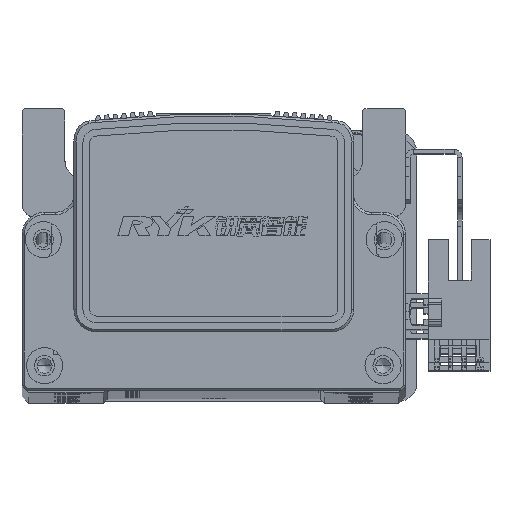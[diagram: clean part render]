
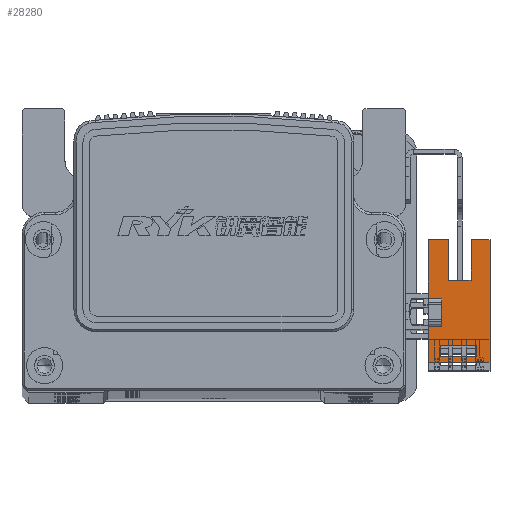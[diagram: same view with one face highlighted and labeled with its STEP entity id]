
A CAD part, top view. The second image highlights one B-rep face of the part: STEP entity #28280.
In plain terms, the highlighted planar face has unit normal (0, 0, 1) as drawn and (1, 0, 0) by its records, which use the part's own axes.
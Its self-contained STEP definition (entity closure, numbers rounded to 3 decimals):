
#395 = CARTESIAN_POINT ( 'NONE',  ( 3.2, 16.1, 3. ) ) ;
#405 = DIRECTION ( 'NONE',  ( 0., 1., 0. ) ) ;
#9105 = FACE_OUTER_BOUND ( 'NONE', #56642, .T. ) ;
#9120 = FACE_BOUND ( 'NONE', #58820, .T. ) ;
#10936 = CARTESIAN_POINT ( 'NONE',  ( 3.2, 16.1, -10.7 ) ) ;
#10950 = DIRECTION ( 'NONE',  ( 0., 1., 0. ) ) ;
#10956 = DIRECTION ( 'NONE',  ( 1., 0., 0. ) ) ;
#10961 = PLANE ( 'NONE',  #12302 ) ;
#12302 = AXIS2_PLACEMENT_3D ( 'NONE', #10936, #10956, #10950 ) ;
#18499 = CARTESIAN_POINT ( 'NONE',  ( 3.2, 16.1, -6.5 ) ) ;
#18539 = CARTESIAN_POINT ( 'NONE',  ( 3.2, 16.1, 3. ) ) ;
#18556 = CARTESIAN_POINT ( 'NONE',  ( 3.2, -3.1, 3. ) ) ;
#18564 = CARTESIAN_POINT ( 'NONE',  ( 3.2, -9.83, 0.3 ) ) ;
#18583 = CARTESIAN_POINT ( 'NONE',  ( 3.2, 16.1, -1.5 ) ) ;
#18586 = CARTESIAN_POINT ( 'NONE',  ( 3.2, 16.1, -10.7 ) ) ;
#18587 = CARTESIAN_POINT ( 'NONE',  ( 3.2, -7.33, 0.3 ) ) ;
#18607 = CARTESIAN_POINT ( 'NONE',  ( 3.2, 7.1, -6.5 ) ) ;
#18619 = CARTESIAN_POINT ( 'NONE',  ( 3.2, -9.83, -7.7 ) ) ;
#18626 = CARTESIAN_POINT ( 'NONE',  ( 3.2, -7.33, -7.7 ) ) ;
#18630 = CARTESIAN_POINT ( 'NONE',  ( 3.2, 3.1, 3. ) ) ;
#18632 = CARTESIAN_POINT ( 'NONE',  ( 3.2, -11.1, 3. ) ) ;
#18638 = CARTESIAN_POINT ( 'NONE',  ( 3.2, 3.1, 0. ) ) ;
#18640 = CARTESIAN_POINT ( 'NONE',  ( 3.2, 7.1, -1.5 ) ) ;
#18651 = CARTESIAN_POINT ( 'NONE',  ( 3.2, -11.1, -10.7 ) ) ;
#18718 = CARTESIAN_POINT ( 'NONE',  ( 3.2, -3.1, 0. ) ) ;
#22558 = VECTOR ( 'NONE', #53618, 1000. ) ;
#22575 = LINE ( 'NONE', #53603, #22607 ) ;
#22585 = LINE ( 'NONE', #53562, #22612 ) ;
#22592 = VECTOR ( 'NONE', #53613, 1000. ) ;
#22597 = LINE ( 'NONE', #53681, #22592 ) ;
#22607 = VECTOR ( 'NONE', #53650, 1000. ) ;
#22612 = VECTOR ( 'NONE', #53586, 1000. ) ;
#22614 = LINE ( 'NONE', #53658, #22558 ) ;
#22622 = LINE ( 'NONE', #53735, #22648 ) ;
#22628 = LINE ( 'NONE', #53875, #22669 ) ;
#22646 = VECTOR ( 'NONE', #53850, 1000. ) ;
#22648 = VECTOR ( 'NONE', #53760, 1000. ) ;
#22663 = LINE ( 'NONE', #53816, #22671 ) ;
#22669 = VECTOR ( 'NONE', #53790, 1000. ) ;
#22670 = VECTOR ( 'NONE', #53855, 1000. ) ;
#22671 = VECTOR ( 'NONE', #53849, 1000. ) ;
#22675 = LINE ( 'NONE', #53845, #22646 ) ;
#22683 = LINE ( 'NONE', #53814, #22670 ) ;
#28280 = ADVANCED_FACE ( 'NONE', ( #9105, #9120 ), #10961, .T. ) ;
#29840 = VERTEX_POINT ( 'NONE', #18499 ) ;
#29869 = VERTEX_POINT ( 'NONE', #18556 ) ;
#29870 = VERTEX_POINT ( 'NONE', #18586 ) ;
#29875 = VERTEX_POINT ( 'NONE', #18539 ) ;
#29891 = VERTEX_POINT ( 'NONE', #18583 ) ;
#29892 = VERTEX_POINT ( 'NONE', #18587 ) ;
#29918 = VERTEX_POINT ( 'NONE', #18564 ) ;
#29919 = VERTEX_POINT ( 'NONE', #18651 ) ;
#29931 = VERTEX_POINT ( 'NONE', #18632 ) ;
#29933 = VERTEX_POINT ( 'NONE', #18630 ) ;
#29938 = VERTEX_POINT ( 'NONE', #18638 ) ;
#29945 = VERTEX_POINT ( 'NONE', #18640 ) ;
#29956 = VERTEX_POINT ( 'NONE', #18619 ) ;
#29974 = VERTEX_POINT ( 'NONE', #18607 ) ;
#29981 = VERTEX_POINT ( 'NONE', #18626 ) ;
#29997 = VERTEX_POINT ( 'NONE', #18718 ) ;
#40644 = EDGE_CURVE ( 'NONE', #29997, #29938, #22585, .T. ) ;
#40648 = EDGE_CURVE ( 'NONE', #29918, #29956, #22597, .T. ) ;
#40661 = EDGE_CURVE ( 'NONE', #29933, #29875, #22614, .T. ) ;
#40669 = EDGE_CURVE ( 'NONE', #29840, #29974, #22575, .T. ) ;
#40712 = EDGE_CURVE ( 'NONE', #29981, #29892, #22622, .T. ) ;
#40734 = EDGE_CURVE ( 'NONE', #29870, #29840, #22663, .T. ) ;
#40736 = EDGE_CURVE ( 'NONE', #29974, #29945, #22675, .T. ) ;
#40744 = EDGE_CURVE ( 'NONE', #29919, #29931, #22683, .T. ) ;
#40749 = EDGE_CURVE ( 'NONE', #29956, #29981, #22628, .T. ) ;
#44198 = EDGE_CURVE ( 'NONE', #29931, #29869, #72079, .T. ) ;
#44252 = ORIENTED_EDGE ( 'NONE', *, *, #51213, .T. ) ;
#44253 = ORIENTED_EDGE ( 'NONE', *, *, #40661, .F. ) ;
#44254 = ORIENTED_EDGE ( 'NONE', *, *, #40669, .T. ) ;
#44264 = ORIENTED_EDGE ( 'NONE', *, *, #51232, .T. ) ;
#44265 = ORIENTED_EDGE ( 'NONE', *, *, #44198, .F. ) ;
#44266 = ORIENTED_EDGE ( 'NONE', *, *, #40744, .F. ) ;
#44267 = ORIENTED_EDGE ( 'NONE', *, *, #40734, .T. ) ;
#44269 = ORIENTED_EDGE ( 'NONE', *, *, #51236, .F. ) ;
#44274 = ORIENTED_EDGE ( 'NONE', *, *, #51199, .F. ) ;
#44283 = ORIENTED_EDGE ( 'NONE', *, *, #40749, .F. ) ;
#44288 = ORIENTED_EDGE ( 'NONE', *, *, #40712, .F. ) ;
#44300 = ORIENTED_EDGE ( 'NONE', *, *, #51187, .F. ) ;
#44308 = ORIENTED_EDGE ( 'NONE', *, *, #40648, .F. ) ;
#44377 = ORIENTED_EDGE ( 'NONE', *, *, #40736, .T. ) ;
#44417 = ORIENTED_EDGE ( 'NONE', *, *, #40644, .F. ) ;
#44429 = ORIENTED_EDGE ( 'NONE', *, *, #51235, .T. ) ;
#51187 = EDGE_CURVE ( 'NONE', #29938, #29933, #62713, .T. ) ;
#51199 = EDGE_CURVE ( 'NONE', #29892, #29918, #62677, .T. ) ;
#51213 = EDGE_CURVE ( 'NONE', #29919, #29870, #62697, .T. ) ;
#51232 = EDGE_CURVE ( 'NONE', #29945, #29891, #62729, .T. ) ;
#51235 = EDGE_CURVE ( 'NONE', #29891, #29875, #62734, .T. ) ;
#51236 = EDGE_CURVE ( 'NONE', #29869, #29997, #62744, .T. ) ;
#53562 = CARTESIAN_POINT ( 'NONE',  ( 3.2, 0., 0. ) ) ;
#53586 = DIRECTION ( 'NONE',  ( 0., 1., 0. ) ) ;
#53603 = CARTESIAN_POINT ( 'NONE',  ( 3.2, 25.1, -6.5 ) ) ;
#53613 = DIRECTION ( 'NONE',  ( 0., 0., -1. ) ) ;
#53618 = DIRECTION ( 'NONE',  ( 0., 1., 0. ) ) ;
#53650 = DIRECTION ( 'NONE',  ( 0., -1., 0. ) ) ;
#53658 = CARTESIAN_POINT ( 'NONE',  ( 3.2, 16.1, 3. ) ) ;
#53681 = CARTESIAN_POINT ( 'NONE',  ( 3.2, -9.83, -10.7 ) ) ;
#53735 = CARTESIAN_POINT ( 'NONE',  ( 3.2, -7.33, -10.7 ) ) ;
#53760 = DIRECTION ( 'NONE',  ( 0., 0., 1. ) ) ;
#53790 = DIRECTION ( 'NONE',  ( 0., 1., 0. ) ) ;
#53814 = CARTESIAN_POINT ( 'NONE',  ( 3.2, -11.1, 3. ) ) ;
#53816 = CARTESIAN_POINT ( 'NONE',  ( 3.2, 16.1, -10.7 ) ) ;
#53845 = CARTESIAN_POINT ( 'NONE',  ( 3.2, 7.1, -6.5 ) ) ;
#53849 = DIRECTION ( 'NONE',  ( 0., 0., 1. ) ) ;
#53850 = DIRECTION ( 'NONE',  ( 0., 0., 1. ) ) ;
#53855 = DIRECTION ( 'NONE',  ( 0., 0., 1. ) ) ;
#53875 = CARTESIAN_POINT ( 'NONE',  ( 3.2, 16.1, -7.7 ) ) ;
#56642 = EDGE_LOOP ( 'NONE', ( #44254, #44377, #44264, #44429, #44253, #44300, #44417, #44269, #44265, #44266, #44252, #44267 ) ) ;
#58820 = EDGE_LOOP ( 'NONE', ( #44274, #44288, #44283, #44308 ) ) ;
#62656 = VECTOR ( 'NONE', #68751, 1000. ) ;
#62677 = LINE ( 'NONE', #68746, #62656 ) ;
#62697 = LINE ( 'NONE', #68792, #62698 ) ;
#62698 = VECTOR ( 'NONE', #68770, 1000. ) ;
#62709 = VECTOR ( 'NONE', #68721, 1000. ) ;
#62713 = LINE ( 'NONE', #68712, #62709 ) ;
#62729 = LINE ( 'NONE', #68805, #62756 ) ;
#62730 = VECTOR ( 'NONE', #68815, 1000. ) ;
#62734 = LINE ( 'NONE', #68838, #62730 ) ;
#62744 = LINE ( 'NONE', #68821, #62770 ) ;
#62756 = VECTOR ( 'NONE', #68837, 1000. ) ;
#62770 = VECTOR ( 'NONE', #68816, 1000. ) ;
#68712 = CARTESIAN_POINT ( 'NONE',  ( 3.2, 3.1, 3. ) ) ;
#68721 = DIRECTION ( 'NONE',  ( 0., 0., 1. ) ) ;
#68746 = CARTESIAN_POINT ( 'NONE',  ( 3.2, 16.1, 0.3 ) ) ;
#68751 = DIRECTION ( 'NONE',  ( 0., -1., 0. ) ) ;
#68770 = DIRECTION ( 'NONE',  ( 0., 1., 0. ) ) ;
#68792 = CARTESIAN_POINT ( 'NONE',  ( 3.2, 16.1, -10.7 ) ) ;
#68805 = CARTESIAN_POINT ( 'NONE',  ( 3.2, 25.1, -1.5 ) ) ;
#68815 = DIRECTION ( 'NONE',  ( 0., 0., 1. ) ) ;
#68816 = DIRECTION ( 'NONE',  ( 0., 0., -1. ) ) ;
#68821 = CARTESIAN_POINT ( 'NONE',  ( 3.2, -3.1, 3. ) ) ;
#68837 = DIRECTION ( 'NONE',  ( 0., 1., 0. ) ) ;
#68838 = CARTESIAN_POINT ( 'NONE',  ( 3.2, 16.1, -10.7 ) ) ;
#72079 = LINE ( 'NONE', #395, #72087 ) ;
#72087 = VECTOR ( 'NONE', #405, 1000. ) ;
